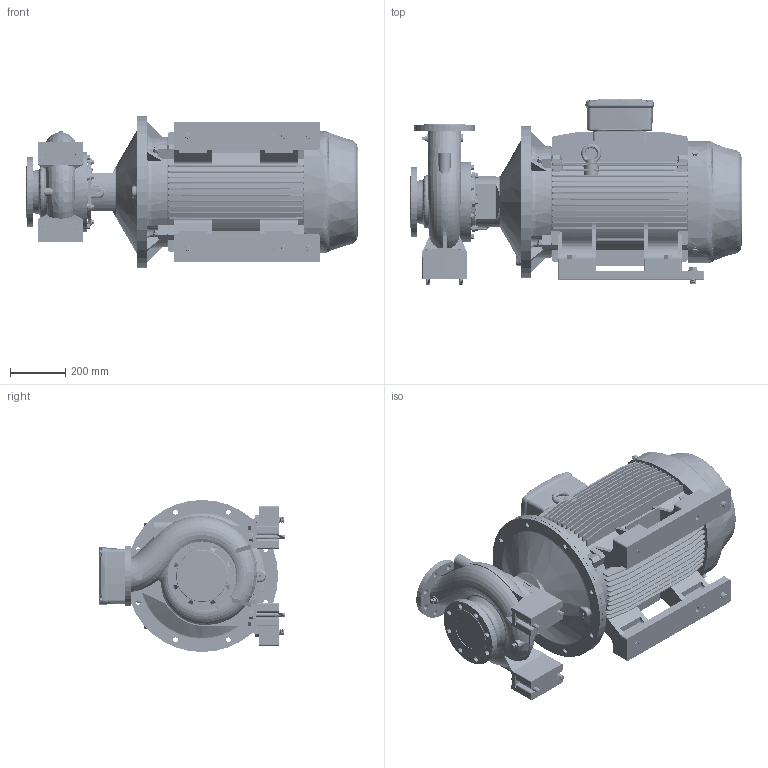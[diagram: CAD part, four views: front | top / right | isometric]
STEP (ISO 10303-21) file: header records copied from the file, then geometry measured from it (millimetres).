
FILE_DESCRIPTION (( 'STEP AP214' ), '1' );
FILE_NAME ('GSD2 100-200_55 & 75_(250SM)_W21.STEP', '2026-07-08T02:20:56', ( '' ), ( '' ), 'SwSTEP 2.0', 'SolidWorks 2024', '' );
FILE_SCHEMA (( 'AUTOMOTIVE_DESIGN' ));
Length unit declared in the file: millimetre
Products named in the file (13): Parametric bolt_SFT-A387B; Parametric bolt and washer_SFT-A417B; Parametric Flat Washer_M16; Parametric Flat Washer_M20; A407B Bolt_407; 100x30 - CGSDA-5291; GSD2  100-200_55 & 75_(250SM)_W21; Parametric bolt and washer_SFT-A387B; CGS11-5321_2_3_4_5_CGS11-5322; 100-200-250S_M_ﾃﾞﾌｫﾙﾄ; Parametric bolt_SFT-A417B; CGS11-5321_2_3_4_5_CGS11-5324; 250S_M2P IE3_W21T_B35
Assembly tree (26 placements, depth 3):
  GSD2  100-200_55 & 75_(250SM)_W21
    100-200-250S_M_ﾃﾞﾌｫﾙﾄ
    250S_M2P IE3_W21T_B35
    CGS11-5321_2_3_4_5_CGS11-5322  x4
    CGS11-5321_2_3_4_5_CGS11-5324  x2
    100x30 - CGSDA-5291  x2
    Parametric bolt and washer_SFT-A387B  x4
      Parametric bolt_SFT-A387B
      Parametric Flat Washer_M16
    Parametric bolt and washer_SFT-A417B  x4
      Parametric bolt_SFT-A417B
      Parametric Flat Washer_M20
    A407B Bolt_407  x2
    Parametric Flat Washer_M20  x2
Bounding box: 1200.5 x 674 x 550 mm (x, y, z)
Volume: 146610624.5 mm3; surface area: 5662653.7 mm2
Topology: 32 solids, 37 shells, 4241 faces, 11247 edges, 7193 vertices
Faces by surface type: plane 1661, cylinder 1508, cone 451, bspline 323, torus 282, sphere 16
Entity records: 181542 total; most frequent: CARTESIAN_POINT 96266, ORIENTED_EDGE 18814, DIRECTION 16772, EDGE_CURVE 9407, AXIS2_PLACEMENT_3D 6135, VERTEX_POINT 5994, LINE 4502, VECTOR 4502
